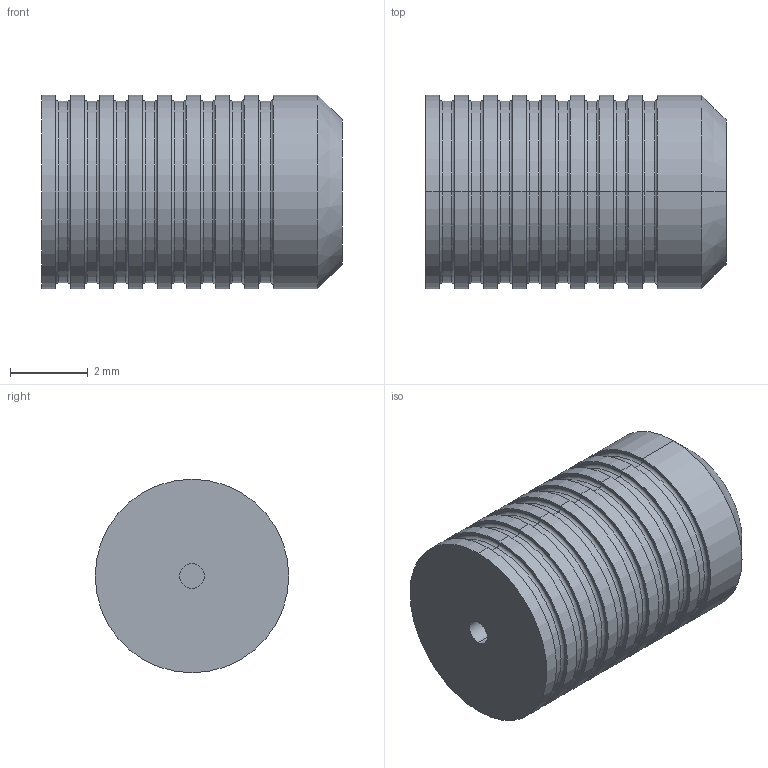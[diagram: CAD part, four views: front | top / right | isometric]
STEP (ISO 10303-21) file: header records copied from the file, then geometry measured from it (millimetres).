
FILE_DESCRIPTION (( 'STEP AP214' ), '1' );
FILE_NAME ('PLGM0501_ _ 0A.STEP', '2020-02-19T17:59:56', ( 'tlc' ), ( 'Microsoft' ), 'SwSTEP 2.0', 'SolidWorks 2019', '' );
FILE_SCHEMA (( 'AUTOMOTIVE_DESIGN' ));
Length unit declared in the file: inch
Products named in the file (1): PLGM0501_ _ 0A
Bounding box: 7.75 x 4.99 x 4.99 mm (x, y, z)
Volume: 139.4 mm3; surface area: 193.4 mm2
Topology: 1 solids, 1 shells, 89 faces, 176 edges, 106 vertices
Faces by surface type: cylinder 36, torus 32, plane 19, cone 2
Entity records: 2376 total; most frequent: DIRECTION 494, CARTESIAN_POINT 372, ORIENTED_EDGE 352, AXIS2_PLACEMENT_3D 228, EDGE_CURVE 176, CIRCLE 138, VERTEX_POINT 106, EDGE_LOOP 106
